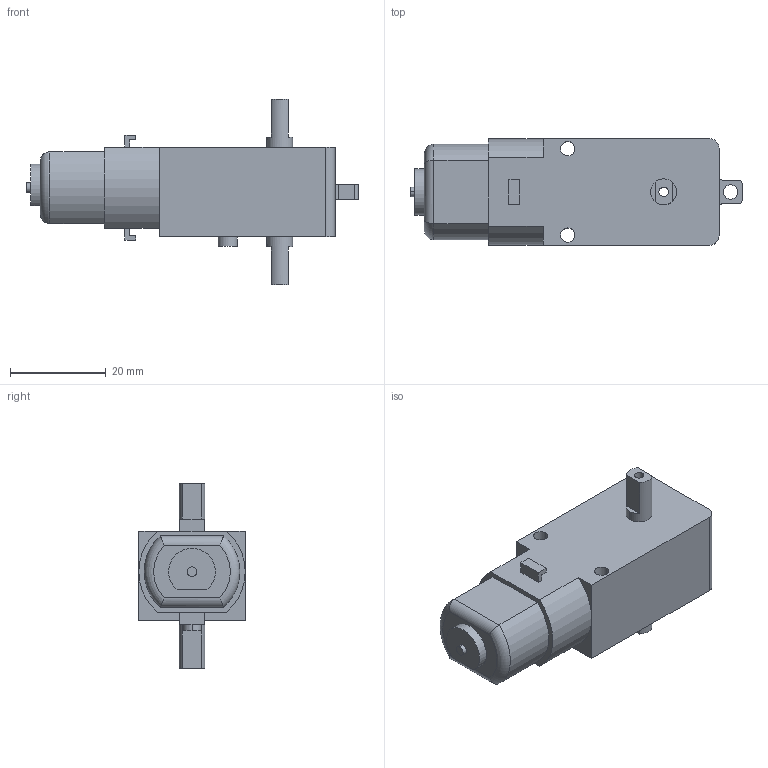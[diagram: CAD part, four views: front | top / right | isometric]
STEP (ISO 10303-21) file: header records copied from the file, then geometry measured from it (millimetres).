
FILE_DESCRIPTION (( 'STEP AP203' ), '1' );
FILE_NAME ('TT Motor (ACP).STEP', '2020-05-02T05:31:15', ( '' ), ( '' ), 'SwSTEP 2.0', 'SolidWorks 2019', '' );
FILE_SCHEMA (( 'CONFIG_CONTROL_DESIGN' ));
Length unit declared in the file: millimetre
Products named in the file (1): TT Motor (ACP)
Bounding box: 69.5 x 22.3 x 38.8 mm (x, y, z)
Volume: 23092.8 mm3; surface area: 6523.4 mm2
Topology: 1 solids, 1 shells, 77 faces, 192 edges, 126 vertices
Faces by surface type: plane 46, cylinder 29, torus 2
Entity records: 2441 total; most frequent: CARTESIAN_POINT 448, DIRECTION 410, ORIENTED_EDGE 384, EDGE_CURVE 192, AXIS2_PLACEMENT_3D 144, VERTEX_POINT 126, LINE 122, VECTOR 122
